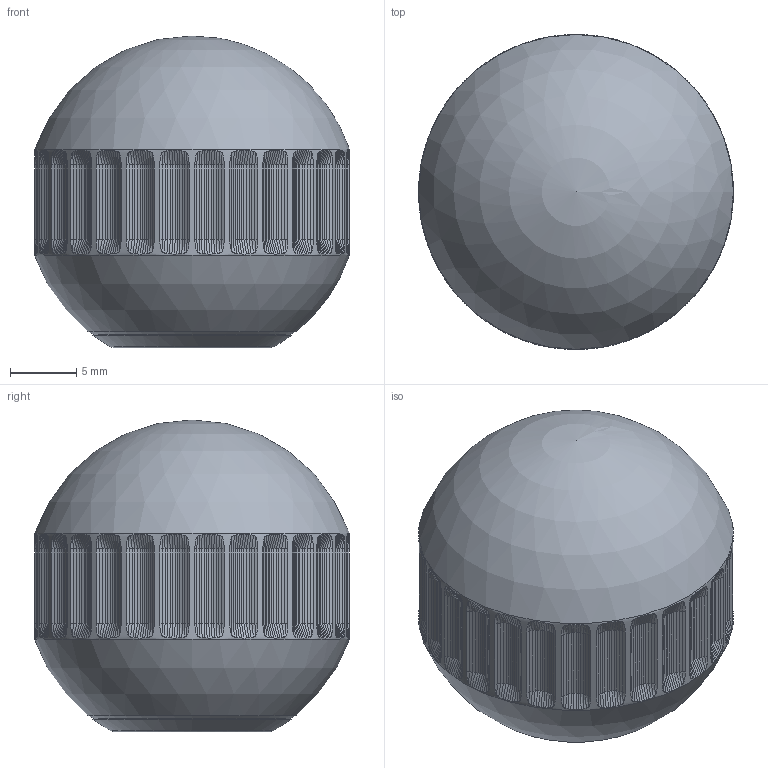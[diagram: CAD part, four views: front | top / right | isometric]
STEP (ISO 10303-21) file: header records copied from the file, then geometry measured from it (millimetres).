
FILE_DESCRIPTION(('Open CASCADE Model'),'2;1');
FILE_NAME('RL-BALL-knob-25','2026-10-19T21:26:02',('Author'),( 'Open CASCADE'),'Open CASCADE STEP processor 8.0','build123d', 'Unknown');
FILE_SCHEMA(('AUTOMOTIVE_DESIGN { 1 0 10303 214 1 1 1 1 }'));
Length unit declared in the file: millimetre
Products named in the file (2): RL-BALL-knob-25; brass_RL-BALL25__k
Assembly tree (1 placements, depth 2):
  RL-BALL-knob-25
    brass_RL-BALL25__k
Bounding box: 23.69 x 23.69 x 23.47 mm (x, y, z)
Volume: 7563.4 mm3; surface area: 2106.9 mm2
Topology: 1 solids, 1 shells, 1021 faces, 2347 edges, 1357 vertices
Faces by surface type: bspline 673, plane 339, cylinder 4, sphere 3, cone 2
Full cylindrical faces by diameter (mm): 3.3 x1, 5.1 x1, 15.691 x1, 23.685 x1
Entity records: 69912 total; most frequent: CARTESIAN_POINT 31236, ORIENTED_EDGE 4692, PCURVE 4692, DEFINITIONAL_REPRESENTATION 4692, B_SPLINE_CURVE_WITH_KNOTS 3899, DIRECTION 3852, LINE 3122, VECTOR 3122
